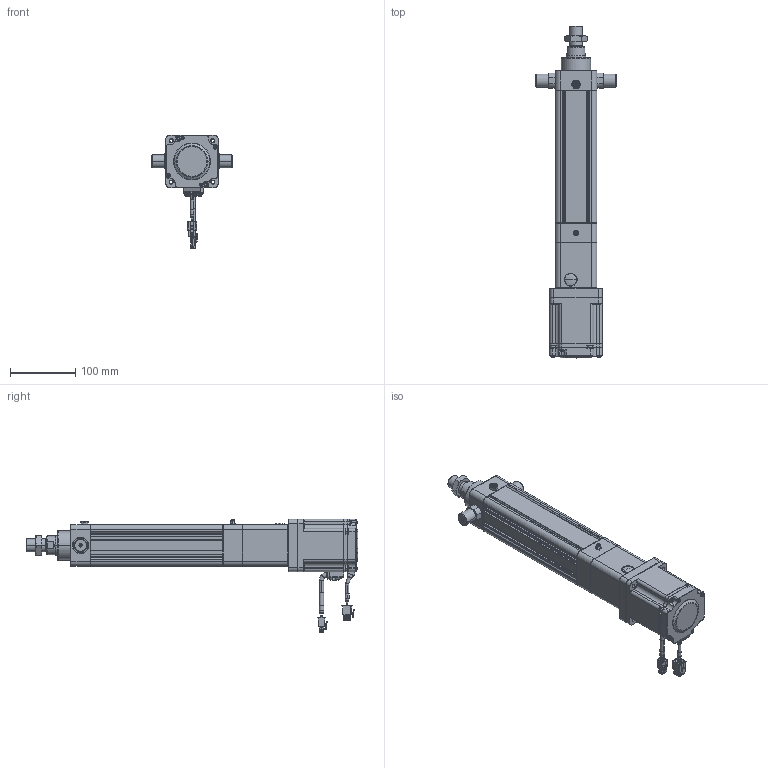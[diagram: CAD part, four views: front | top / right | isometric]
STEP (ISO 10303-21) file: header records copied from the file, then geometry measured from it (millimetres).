
FILE_DESCRIPTION((''),'2;1');
FILE_NAME('HE50-D-100-X1_ASM','2020-05-21T',('ASUS20200'),(''),'CREO PARAMETRIC BY PTC INC, 2014190','CREO PARAMETRIC BY PTC INC, 2014190','');
FILE_SCHEMA(('CONFIG_CONTROL_DESIGN'));
Length unit declared in the file: millimetre
Products named in the file (26): HE50-D-P-001-X1; HE50-D-P-002-X1; HE50-D-P-003-X1; HE50-D-009-X1; HE50-D-010-X1; 6301ZZ; LGLM-M8-22; SKT-16; SLM-01; YZ-M6X1; _MHMF082L1A2; _CABLE_MOTOR_BOTTOM_05; _CABLE_MOTOR_TOP_05; _MOTOR_CONNECTOR_2; _CABLE_BRAKE_BOTTOM_05; _CABLE_BRAKE_TOP_05; _MHMF_CONNECTOR_9_PIN_A6; MHMF082L1A2M2_1_ASM; M6X16; JX6X6X20; JDB303820; HE50-TC; HE50-D-P-005-X1; HE50-D-P-004-X1; HE50-D-P-008-X1; HE50-D-100-X1_ASM
Assembly tree (36 placements, depth 3):
  HE50-D-100-X1_ASM
    HE50-D-P-001-X1
    HE50-D-P-002-X1
    HE50-D-P-003-X1
    HE50-D-009-X1
    HE50-D-010-X1
    6301ZZ
    LGLM-M8-22  x8
    SKT-16
    SLM-01
    YZ-M6X1
    MHMF082L1A2M2_1_ASM
      _MHMF082L1A2
      _CABLE_MOTOR_BOTTOM_05
      _CABLE_MOTOR_TOP_05
      _MOTOR_CONNECTOR_2
      _CABLE_BRAKE_BOTTOM_05
      _CABLE_BRAKE_TOP_05
      _MHMF_CONNECTOR_9_PIN_A6
    M6X16  x4
    JX6X6X20
    JDB303820
    HE50-TC  x2
    HE50-D-P-005-X1
    HE50-D-P-004-X1
    HE50-D-P-008-X1
Bounding box: 124 x 508.4 x 173.65 mm (x, y, z)
Volume: 1426019 mm3; surface area: 378197.2 mm2
Topology: 35 solids, 65 shells, 2585 faces, 6301 edges, 3913 vertices
Faces by surface type: plane 1098, cylinder 749, cone 589, torus 102, sphere 44, bspline 3
Entity records: 67169 total; most frequent: CARTESIAN_POINT 12764, DIRECTION 11919, ORIENTED_EDGE 10734, EDGE_CURVE 5423, AXIS2_PLACEMENT_3D 4452, VERTEX_POINT 3397, VECTOR 3015, LINE 3015
